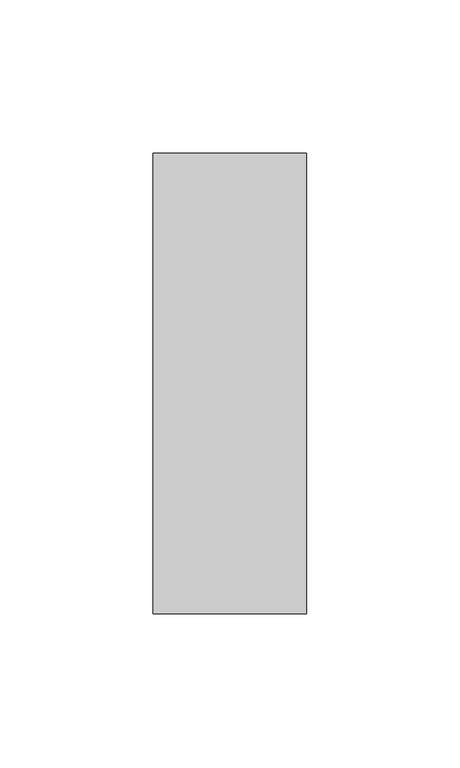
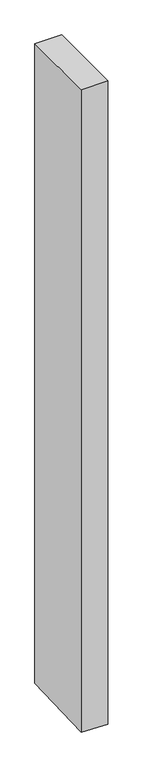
"""IFC4 building model written with IfcOpenShell, lengths in millimetres: member geometry, Прямоугольный импост : 50 x 150 мм."""

from ifc_helpers import new_model, si_unit, origin, place, context, project, spatial, faceted_brep, source, transform, mapped, element, save


def member_3abead71(model_context):
    return source(origin(), model_context, "Body", "Brep", [
        faceted_brep([(25.0, 75.0, 0.0), (-25.0, 75.0, 0.0), (-25.0, -75.0, 0.0), (25.0, -75.0, 0.0), (25.0, 75.0, -1269.7864046), (-25.0, 75.0, -1268.4115804), (-25.0, -75.0, -1274.6174524), (25.0, -75.0, -1275.9922766)], [[[0, 1, 2, 3]], [[1, 0, 4, 5]], [[2, 1, 5, 6]], [[3, 2, 6, 7]], [[0, 3, 7, 4]], [[4, 7, 6, 5]]]),
    ])


if __name__ == "__main__":
    model = new_model("IFC4")
    model_context = context("Model", 3, world=origin())
    ifc_project = project(units=[si_unit("LENGTHUNIT", "METRE", prefix="MILLI")], contexts=[model_context])
    site = spatial("IfcSite", under=ifc_project)
    building = spatial("IfcBuilding", under=site)
    placement = place(None, origin())
    member_shape = member_3abead71(model_context)
    element("IfcMember", 1, ObjectType="Прямоугольный импост : 50 x 150 мм", at=placement, inside=building, context=model_context, shape_type="MappedRepresentation", body=[
        mapped(member_shape, transform((0.0, 0.0, 0.0), x_axis=(1.0, 0.0, 0.0), y_axis=(0.0, 1.0, 0.0), z_axis=(0.0, 0.0, 1.0))),
    ])
    save(model, "model.ifc")
